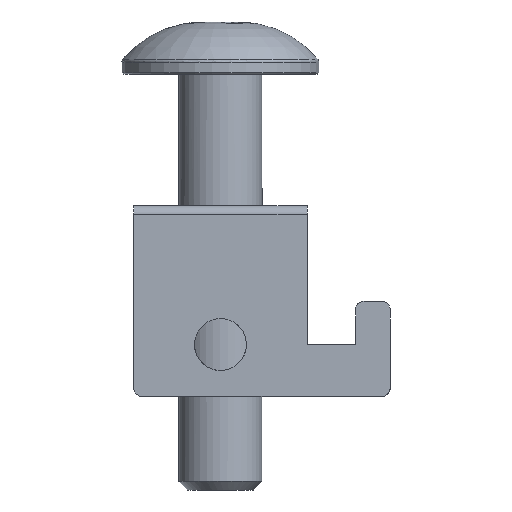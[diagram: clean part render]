
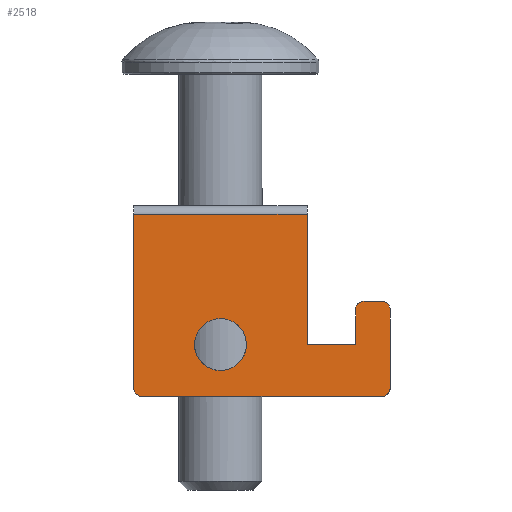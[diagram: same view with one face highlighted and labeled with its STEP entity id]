
A CAD part, left-side view. The second image highlights one B-rep face of the part: STEP entity #2518.
In plain terms, the highlighted planar face has unit normal (-1, 0, 0.018).
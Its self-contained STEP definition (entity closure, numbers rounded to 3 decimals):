
#25 = DIRECTION ( 'NONE',  ( -0.017, 0., -1. ) ) ;
#26 = FACE_OUTER_BOUND ( 'NONE', #2059, .T. ) ;
#34 = VERTEX_POINT ( 'NONE', #3106 ) ;
#75 = CARTESIAN_POINT ( 'NONE',  ( -6.596, -14.3, -5.5 ) ) ;
#88 = VECTOR ( 'NONE', #1961, 1000. ) ;
#122 = CARTESIAN_POINT ( 'NONE',  ( -6.6, -12.8, -5.707 ) ) ;
#131 = EDGE_CURVE ( 'NONE', #1525, #167, #380, .T. ) ;
#145 =( BOUNDED_CURVE ( )  B_SPLINE_CURVE ( 3, ( #2581, #2338, #2546, #2533 ),
 .UNSPECIFIED., .F., .T. ) 
 B_SPLINE_CURVE_WITH_KNOTS ( ( 4, 4 ),
 ( 4.712, 6.283 ),
 .UNSPECIFIED. ) 
 CURVE ( )  GEOMETRIC_REPRESENTATION_ITEM ( )  RATIONAL_B_SPLINE_CURVE ( ( 1., 0.805, 0.805, 1. ) ) 
 REPRESENTATION_ITEM ( '' )  );
#160 = CARTESIAN_POINT ( 'NONE',  ( -6.692, -14.593, -11. ) ) ;
#167 = VERTEX_POINT ( 'NONE', #2653 ) ;
#185 = CARTESIAN_POINT ( 'NONE',  ( -6.596, -13.007, -5.5 ) ) ;
#224 = DIRECTION ( 'NONE',  ( -0.017, 0., -1. ) ) ;
#239 = CARTESIAN_POINT ( 'NONE',  ( -6.613, -2., -6.5 ) ) ;
#253 = VECTOR ( 'NONE', #2987, 1000. ) ;
#269 = ORIENTED_EDGE ( 'NONE', *, *, #2820, .T. ) ;
#289 = VERTEX_POINT ( 'NONE', #2121 ) ;
#295 = VECTOR ( 'NONE', #224, 1000. ) ;
#380 =( BOUNDED_CURVE ( )  B_SPLINE_CURVE ( 3, ( #2152, #185, #122, #1917 ),
 .UNSPECIFIED., .F., .F. ) 
 B_SPLINE_CURVE_WITH_KNOTS ( ( 4, 4 ),
 ( 3.142, 4.712 ),
 .UNSPECIFIED. ) 
 CURVE ( )  GEOMETRIC_REPRESENTATION_ITEM ( )  RATIONAL_B_SPLINE_CURVE ( ( 1., 0.805, 0.805, 1. ) ) 
 REPRESENTATION_ITEM ( '' )  );
#383 = VERTEX_POINT ( 'NONE', #755 ) ;
#390 = DIRECTION ( 'NONE',  ( -0.017, 0., -1. ) ) ;
#426 = EDGE_CURVE ( 'NONE', #1543, #1928, #2869, .T. ) ;
#513 = CARTESIAN_POINT ( 'NONE',  ( -6.666, -8., -9.5 ) ) ;
#518 = EDGE_CURVE ( 'NONE', #383, #2790, #1507, .T. ) ;
#547 = VECTOR ( 'NONE', #1039, 1000. ) ;
#622 = CARTESIAN_POINT ( 'NONE',  ( -6.5, -10., 0. ) ) ;
#687 = CARTESIAN_POINT ( 'NONE',  ( -6.688, 0., -10.793 ) ) ;
#755 = CARTESIAN_POINT ( 'NONE',  ( -6.605, -14.8, -6. ) ) ;
#756 = ORIENTED_EDGE ( 'NONE', *, *, #1494, .F. ) ;
#769 = CARTESIAN_POINT ( 'NONE',  ( -6.5, -14.8, 0. ) ) ;
#786 = CARTESIAN_POINT ( 'NONE',  ( -6.596, -10., -5.5 ) ) ;
#796 =( BOUNDED_CURVE ( )  B_SPLINE_CURVE ( 3, ( #1223, #513, #1026, #1496, #239, #2442, #2483 ),
 .UNSPECIFIED., .T., .F. ) 
 B_SPLINE_CURVE_WITH_KNOTS ( ( 4, 3, 4 ),
 ( 0., 3.142, 6.283 ),
 .UNSPECIFIED. ) 
 CURVE ( )  GEOMETRIC_REPRESENTATION_ITEM ( )  RATIONAL_B_SPLINE_CURVE ( ( 1., 0.333, 0.333, 1., 0.333, 0.333, 1. ) ) 
 REPRESENTATION_ITEM ( '' )  );
#804 = EDGE_CURVE ( 'NONE', #1027, #1802, #975, .T. ) ;
#806 = DIRECTION ( 'NONE',  ( -0.017, 0., -1. ) ) ;
#814 = ORIENTED_EDGE ( 'NONE', *, *, #131, .T. ) ;
#833 = CARTESIAN_POINT ( 'NONE',  ( -6.64, -10., -8. ) ) ;
#865 = VECTOR ( 'NONE', #25, 1000. ) ;
#870 = CARTESIAN_POINT ( 'NONE',  ( -6.692, -14.3, -11. ) ) ;
#874 = DIRECTION ( 'NONE',  ( -0.017, 0., -1. ) ) ;
#877 = ORIENTED_EDGE ( 'NONE', *, *, #2868, .T. ) ;
#912 =( BOUNDED_CURVE ( )  B_SPLINE_CURVE ( 3, ( #2803, #160, #2626, #2617 ),
 .UNSPECIFIED., .F., .T. ) 
 B_SPLINE_CURVE_WITH_KNOTS ( ( 4, 4 ),
 ( 0., 1.571 ),
 .UNSPECIFIED. ) 
 CURVE ( )  GEOMETRIC_REPRESENTATION_ITEM ( )  RATIONAL_B_SPLINE_CURVE ( ( 1., 0.805, 0.805, 1. ) ) 
 REPRESENTATION_ITEM ( '' )  );
#921 = EDGE_CURVE ( 'NONE', #383, #2856, #145, .T. ) ;
#952 = CARTESIAN_POINT ( 'NONE',  ( -6.692, -0.207, -11. ) ) ;
#975 = LINE ( 'NONE', #1029, #253 ) ;
#998 = ORIENTED_EDGE ( 'NONE', *, *, #921, .T. ) ;
#1026 = CARTESIAN_POINT ( 'NONE',  ( -6.613, -8., -6.5 ) ) ;
#1027 = VERTEX_POINT ( 'NONE', #2073 ) ;
#1029 = CARTESIAN_POINT ( 'NONE',  ( -6.64, -10., -8. ) ) ;
#1030 = CARTESIAN_POINT ( 'NONE',  ( -6.683, -14.8, -10.5 ) ) ;
#1039 = DIRECTION ( 'NONE',  ( 0., 1., 0. ) ) ;
#1058 = CARTESIAN_POINT ( 'NONE',  ( -6.5, -12.8, 0. ) ) ;
#1076 = VERTEX_POINT ( 'NONE', #870 ) ;
#1128 = VECTOR ( 'NONE', #1479, 1000. ) ;
#1132 = VECTOR ( 'NONE', #806, 1000. ) ;
#1200 = ORIENTED_EDGE ( 'NONE', *, *, #1565, .F. ) ;
#1208 = EDGE_CURVE ( 'NONE', #1076, #2790, #912, .T. ) ;
#1215 = LINE ( 'NONE', #786, #547 ) ;
#1223 = CARTESIAN_POINT ( 'NONE',  ( -6.666, -5., -9.5 ) ) ;
#1238 = VERTEX_POINT ( 'NONE', #2379 ) ;
#1243 = VECTOR ( 'NONE', #390, 1000. ) ;
#1278 = ORIENTED_EDGE ( 'NONE', *, *, #3074, .F. ) ;
#1302 = ORIENTED_EDGE ( 'NONE', *, *, #1412, .T. ) ;
#1412 = EDGE_CURVE ( 'NONE', #34, #1238, #1765, .T. ) ;
#1466 = LINE ( 'NONE', #2913, #88 ) ;
#1479 = DIRECTION ( 'NONE',  ( 0., 1., 0. ) ) ;
#1494 = EDGE_CURVE ( 'NONE', #289, #289, #796, .T. ) ;
#1496 = CARTESIAN_POINT ( 'NONE',  ( -6.613, -5., -6.5 ) ) ;
#1507 = LINE ( 'NONE', #769, #865 ) ;
#1525 = VERTEX_POINT ( 'NONE', #1908 ) ;
#1543 = VERTEX_POINT ( 'NONE', #1994 ) ;
#1565 = EDGE_CURVE ( 'NONE', #1076, #1928, #1466, .T. ) ;
#1598 = PLANE ( 'NONE',  #1650 ) ;
#1650 = AXIS2_PLACEMENT_3D ( 'NONE', #622, #2345, #874 ) ;
#1765 = LINE ( 'NONE', #2251, #1128 ) ;
#1802 = VERTEX_POINT ( 'NONE', #833 ) ;
#1813 = CARTESIAN_POINT ( 'NONE',  ( -6.692, -0.5, -11. ) ) ;
#1894 = ORIENTED_EDGE ( 'NONE', *, *, #804, .T. ) ;
#1900 = LINE ( 'NONE', #2103, #1243 ) ;
#1905 = FACE_BOUND ( 'NONE', #2206, .T. ) ;
#1908 = CARTESIAN_POINT ( 'NONE',  ( -6.596, -13.3, -5.5 ) ) ;
#1917 = CARTESIAN_POINT ( 'NONE',  ( -6.605, -12.8, -6. ) ) ;
#1928 = VERTEX_POINT ( 'NONE', #1813 ) ;
#1961 = DIRECTION ( 'NONE',  ( 0., 1., 0. ) ) ;
#1994 = CARTESIAN_POINT ( 'NONE',  ( -6.683, 0., -10.5 ) ) ;
#2059 = EDGE_LOOP ( 'NONE', ( #1278, #1302, #2866, #2079, #1200, #2425, #2116, #998, #269, #814, #877, #1894 ) ) ;
#2073 = CARTESIAN_POINT ( 'NONE',  ( -6.64, -12.8, -8. ) ) ;
#2079 = ORIENTED_EDGE ( 'NONE', *, *, #426, .T. ) ;
#2103 = CARTESIAN_POINT ( 'NONE',  ( -6.5, -10., 0. ) ) ;
#2116 = ORIENTED_EDGE ( 'NONE', *, *, #518, .F. ) ;
#2121 = CARTESIAN_POINT ( 'NONE',  ( -6.666, -5., -9.5 ) ) ;
#2152 = CARTESIAN_POINT ( 'NONE',  ( -6.596, -13.3, -5.5 ) ) ;
#2206 = EDGE_LOOP ( 'NONE', ( #756 ) ) ;
#2251 = CARTESIAN_POINT ( 'NONE',  ( -6.509, -10., -0.491 ) ) ;
#2338 = CARTESIAN_POINT ( 'NONE',  ( -6.6, -14.8, -5.707 ) ) ;
#2345 = DIRECTION ( 'NONE',  ( -1., 0., 0.017 ) ) ;
#2365 = CARTESIAN_POINT ( 'NONE',  ( -6.683, 0., -10.5 ) ) ;
#2379 = CARTESIAN_POINT ( 'NONE',  ( -6.509, 0., -0.491 ) ) ;
#2425 = ORIENTED_EDGE ( 'NONE', *, *, #1208, .T. ) ;
#2434 = LINE ( 'NONE', #1058, #1132 ) ;
#2442 = CARTESIAN_POINT ( 'NONE',  ( -6.666, -2., -9.5 ) ) ;
#2483 = CARTESIAN_POINT ( 'NONE',  ( -6.666, -5., -9.5 ) ) ;
#2518 = ADVANCED_FACE ( 'NONE', ( #1905, #26 ), #1598, .T. ) ;
#2533 = CARTESIAN_POINT ( 'NONE',  ( -6.596, -14.3, -5.5 ) ) ;
#2546 = CARTESIAN_POINT ( 'NONE',  ( -6.596, -14.593, -5.5 ) ) ;
#2581 = CARTESIAN_POINT ( 'NONE',  ( -6.605, -14.8, -6. ) ) ;
#2596 = CARTESIAN_POINT ( 'NONE',  ( -6.692, -0.5, -11. ) ) ;
#2617 = CARTESIAN_POINT ( 'NONE',  ( -6.683, -14.8, -10.5 ) ) ;
#2626 = CARTESIAN_POINT ( 'NONE',  ( -6.688, -14.8, -10.793 ) ) ;
#2653 = CARTESIAN_POINT ( 'NONE',  ( -6.605, -12.8, -6. ) ) ;
#2704 = EDGE_CURVE ( 'NONE', #1238, #1543, #2935, .T. ) ;
#2790 = VERTEX_POINT ( 'NONE', #1030 ) ;
#2803 = CARTESIAN_POINT ( 'NONE',  ( -6.692, -14.3, -11. ) ) ;
#2820 = EDGE_CURVE ( 'NONE', #2856, #1525, #1215, .T. ) ;
#2856 = VERTEX_POINT ( 'NONE', #75 ) ;
#2866 = ORIENTED_EDGE ( 'NONE', *, *, #2704, .T. ) ;
#2868 = EDGE_CURVE ( 'NONE', #167, #1027, #2434, .T. ) ;
#2869 =( BOUNDED_CURVE ( )  B_SPLINE_CURVE ( 3, ( #2365, #687, #952, #2596 ),
 .UNSPECIFIED., .F., .T. ) 
 B_SPLINE_CURVE_WITH_KNOTS ( ( 4, 4 ),
 ( 1.571, 3.142 ),
 .UNSPECIFIED. ) 
 CURVE ( )  GEOMETRIC_REPRESENTATION_ITEM ( )  RATIONAL_B_SPLINE_CURVE ( ( 1., 0.805, 0.805, 1. ) ) 
 REPRESENTATION_ITEM ( '' )  );
#2913 = CARTESIAN_POINT ( 'NONE',  ( -6.692, -10., -11. ) ) ;
#2935 = LINE ( 'NONE', #3109, #295 ) ;
#2987 = DIRECTION ( 'NONE',  ( 0., 1., 0. ) ) ;
#3074 = EDGE_CURVE ( 'NONE', #34, #1802, #1900, .T. ) ;
#3106 = CARTESIAN_POINT ( 'NONE',  ( -6.509, -10., -0.491 ) ) ;
#3109 = CARTESIAN_POINT ( 'NONE',  ( -6.5, 0., 0. ) ) ;
